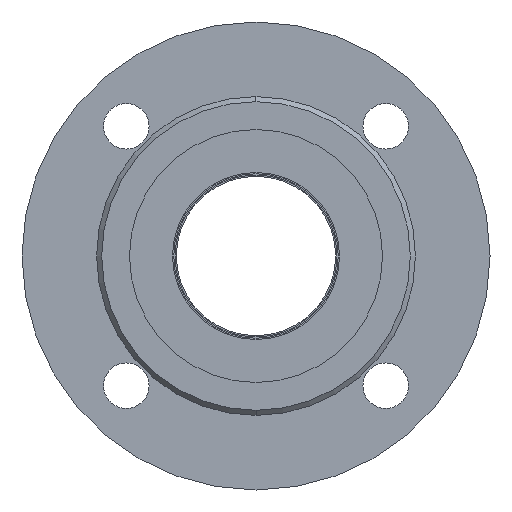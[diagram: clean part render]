
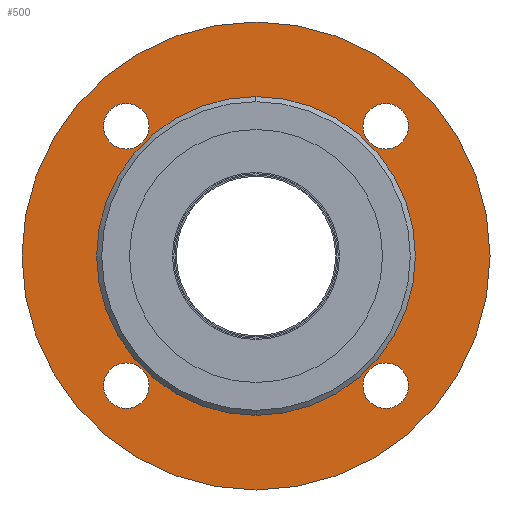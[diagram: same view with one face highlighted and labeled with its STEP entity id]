
A CAD part, left-side view. The second image highlights one B-rep face of the part: STEP entity #500.
In plain terms, the highlighted planar face has unit normal (-1, 0, 0).
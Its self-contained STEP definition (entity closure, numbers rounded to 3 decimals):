
#500=ADVANCED_FACE('',(#938,#939,#940,#941,#942,#943),#944,.F.);
#938=FACE_BOUND('',#1427,.T.);
#939=FACE_BOUND('',#1428,.T.);
#940=FACE_BOUND('',#1429,.T.);
#941=FACE_BOUND('',#1430,.T.);
#942=FACE_BOUND('',#1431,.T.);
#943=FACE_OUTER_BOUND('',#1432,.T.);
#944=PLANE('',#1433);
#1427=EDGE_LOOP('',(#2306,#2307));
#1428=EDGE_LOOP('',(#2308,#2309));
#1429=EDGE_LOOP('',(#2310,#2311));
#1430=EDGE_LOOP('',(#2312,#2313));
#1431=EDGE_LOOP('',(#2314,#2315));
#1432=EDGE_LOOP('',(#2316,#2317));
#1433=AXIS2_PLACEMENT_3D('',#2318,#2319,#2320);
#2306=ORIENTED_EDGE('',*,*,#2745,.T.);
#2307=ORIENTED_EDGE('',*,*,#2897,.T.);
#2308=ORIENTED_EDGE('',*,*,#2668,.T.);
#2309=ORIENTED_EDGE('',*,*,#2732,.T.);
#2310=ORIENTED_EDGE('',*,*,#2663,.T.);
#2311=ORIENTED_EDGE('',*,*,#2658,.T.);
#2312=ORIENTED_EDGE('',*,*,#2575,.T.);
#2313=ORIENTED_EDGE('',*,*,#2577,.T.);
#2314=ORIENTED_EDGE('',*,*,#2740,.T.);
#2315=ORIENTED_EDGE('',*,*,#2898,.T.);
#2316=ORIENTED_EDGE('',*,*,#2891,.F.);
#2317=ORIENTED_EDGE('',*,*,#2879,.F.);
#2318=CARTESIAN_POINT('',(5.0,0.0,0.));
#2319=DIRECTION('',(1.0,0.0,0.));
#2320=DIRECTION('',(0.,0.0,-1.0));
#2575=EDGE_CURVE('',#2986,#2990,#2992,.T.);
#2577=EDGE_CURVE('',#2990,#2986,#2994,.T.);
#2658=EDGE_CURVE('',#3133,#3131,#3134,.T.);
#2663=EDGE_CURVE('',#3131,#3133,#3140,.T.);
#2668=EDGE_CURVE('',#3143,#3147,#3149,.T.);
#2732=EDGE_CURVE('',#3147,#3143,#3247,.T.);
#2740=EDGE_CURVE('',#3253,#3257,#3259,.T.);
#2745=EDGE_CURVE('',#3262,#3266,#3268,.T.);
#2879=EDGE_CURVE('',#3443,#3438,#3445,.T.);
#2891=EDGE_CURVE('',#3438,#3443,#3458,.T.);
#2897=EDGE_CURVE('',#3266,#3262,#3464,.T.);
#2898=EDGE_CURVE('',#3257,#3253,#3465,.T.);
#2986=VERTEX_POINT('',#3559);
#2990=VERTEX_POINT('',#3564);
#2992=CIRCLE('',#3567,9.0);
#2994=CIRCLE('',#3569,9.0);
#3131=VERTEX_POINT('',#3726);
#3133=VERTEX_POINT('',#3729);
#3134=CIRCLE('',#3730,9.0);
#3140=CIRCLE('',#3737,9.0);
#3143=VERTEX_POINT('',#3740);
#3147=VERTEX_POINT('',#3745);
#3149=CIRCLE('',#3748,9.0);
#3247=CIRCLE('',#3860,9.0);
#3253=VERTEX_POINT('',#3866);
#3257=VERTEX_POINT('',#3871);
#3259=CIRCLE('',#3874,9.0);
#3262=VERTEX_POINT('',#3877);
#3266=VERTEX_POINT('',#3882);
#3268=CIRCLE('',#3885,32.5);
#3438=VERTEX_POINT('',#4091);
#3443=VERTEX_POINT('',#4097);
#3445=CIRCLE('',#4100,92.5);
#3458=CIRCLE('',#4117,92.5);
#3464=CIRCLE('',#4123,32.5);
#3465=CIRCLE('',#4124,9.0);
#3559=CARTESIAN_POINT('',(5.0,-51.265,42.265));
#3564=CARTESIAN_POINT('',(5.,-51.265,60.265));
#3567=AXIS2_PLACEMENT_3D('',#4230,#4231,#4232);
#3569=AXIS2_PLACEMENT_3D('',#4233,#4234,#4235);
#3726=CARTESIAN_POINT('',(5.0,51.265,42.265));
#3729=CARTESIAN_POINT('',(5.,51.265,60.265));
#3730=AXIS2_PLACEMENT_3D('',#4380,#4381,#4382);
#3737=AXIS2_PLACEMENT_3D('',#4390,#4391,#4392);
#3740=CARTESIAN_POINT('',(5.0,51.265,-60.265));
#3745=CARTESIAN_POINT('',(5.0,51.265,-42.265));
#3748=AXIS2_PLACEMENT_3D('',#4398,#4399,#4400);
#3860=AXIS2_PLACEMENT_3D('',#4517,#4518,#4519);
#3866=CARTESIAN_POINT('',(5.0,-51.265,-60.265));
#3871=CARTESIAN_POINT('',(5.0,-51.265,-42.265));
#3874=AXIS2_PLACEMENT_3D('',#4531,#4532,#4533);
#3877=CARTESIAN_POINT('',(5.0,0.0,-32.5));
#3882=CARTESIAN_POINT('',(5.0,0.,32.5));
#3885=AXIS2_PLACEMENT_3D('',#4539,#4540,#4541);
#4091=CARTESIAN_POINT('',(5.,0.0,-92.5));
#4097=CARTESIAN_POINT('',(5.,0.,92.5));
#4100=AXIS2_PLACEMENT_3D('',#4718,#4719,#4720);
#4117=AXIS2_PLACEMENT_3D('',#4728,#4729,#4730);
#4123=AXIS2_PLACEMENT_3D('',#4737,#4738,#4739);
#4124=AXIS2_PLACEMENT_3D('',#4740,#4741,#4742);
#4230=CARTESIAN_POINT('',(5.0,-51.265,51.265));
#4231=DIRECTION('',(1.0,0.0,0.));
#4232=DIRECTION('',(0.,0.0,-1.0));
#4233=CARTESIAN_POINT('',(5.0,-51.265,51.265));
#4234=DIRECTION('',(1.0,0.0,0.));
#4235=DIRECTION('',(0.,0.0,-1.0));
#4380=CARTESIAN_POINT('',(5.0,51.265,51.265));
#4381=DIRECTION('',(1.0,0.0,0.));
#4382=DIRECTION('',(0.,0.0,-1.0));
#4390=CARTESIAN_POINT('',(5.0,51.265,51.265));
#4391=DIRECTION('',(1.0,0.0,0.));
#4392=DIRECTION('',(0.,0.0,-1.0));
#4398=CARTESIAN_POINT('',(5.0,51.265,-51.265));
#4399=DIRECTION('',(1.0,0.0,0.));
#4400=DIRECTION('',(0.,0.0,-1.0));
#4517=CARTESIAN_POINT('',(5.0,51.265,-51.265));
#4518=DIRECTION('',(1.0,0.0,0.));
#4519=DIRECTION('',(0.,0.0,-1.0));
#4531=CARTESIAN_POINT('',(5.0,-51.265,-51.265));
#4532=DIRECTION('',(1.0,0.0,0.));
#4533=DIRECTION('',(0.,0.0,-1.0));
#4539=CARTESIAN_POINT('',(5.0,0.0,0.));
#4540=DIRECTION('',(1.0,0.0,0.));
#4541=DIRECTION('',(0.,0.0,-1.0));
#4718=CARTESIAN_POINT('',(5.0,0.0,0.));
#4719=DIRECTION('',(1.0,0.0,0.));
#4720=DIRECTION('',(0.,0.0,-1.0));
#4728=CARTESIAN_POINT('',(5.0,0.0,0.));
#4729=DIRECTION('',(1.0,0.0,0.));
#4730=DIRECTION('',(0.,0.0,-1.0));
#4737=CARTESIAN_POINT('',(5.0,0.0,0.));
#4738=DIRECTION('',(1.0,0.0,0.));
#4739=DIRECTION('',(0.,0.0,-1.0));
#4740=CARTESIAN_POINT('',(5.0,-51.265,-51.265));
#4741=DIRECTION('',(1.0,0.0,0.));
#4742=DIRECTION('',(0.,0.0,-1.0));
